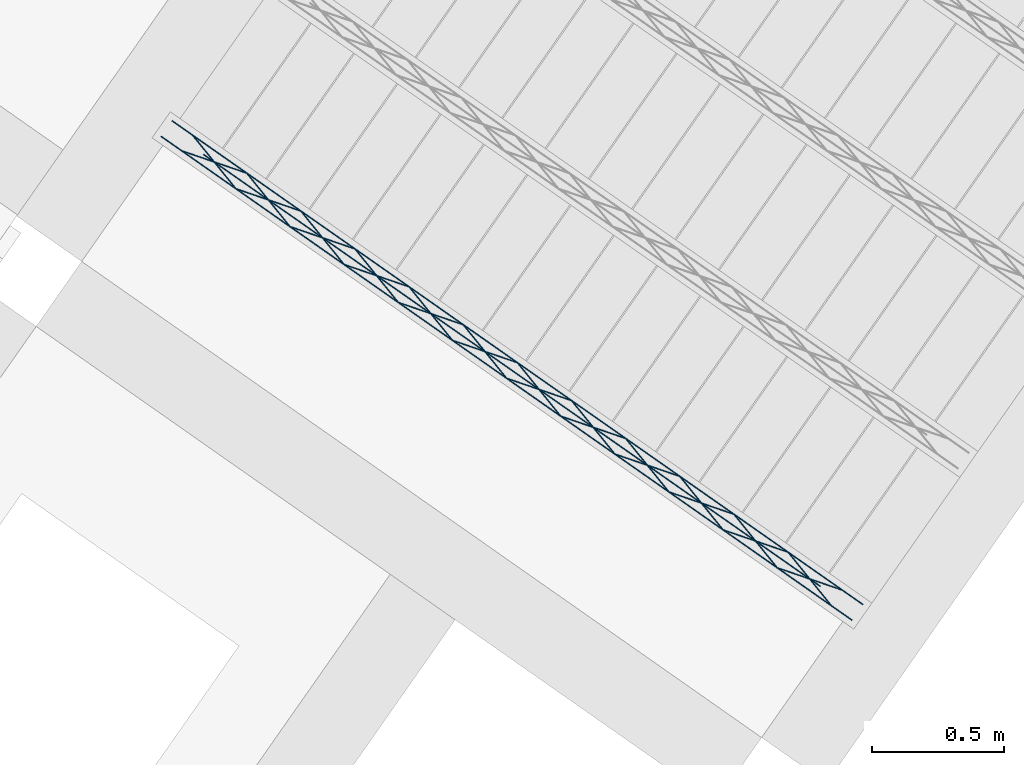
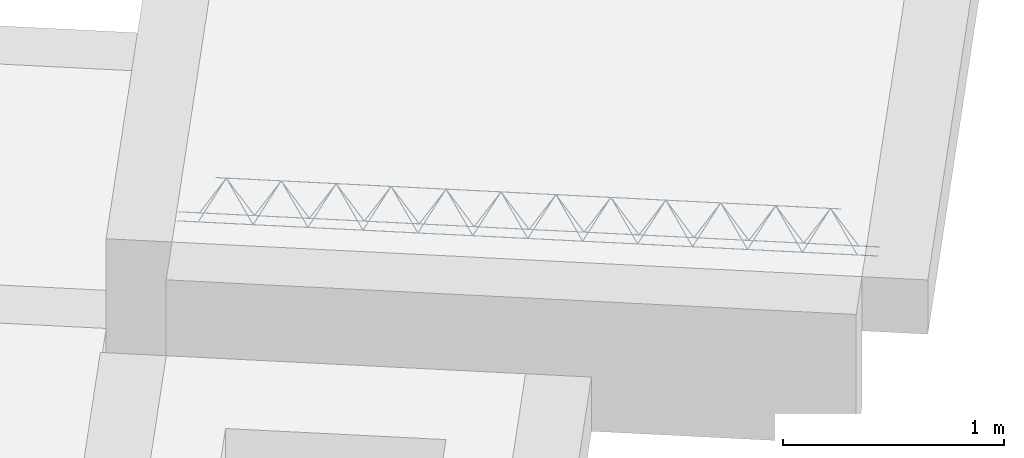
# One storey, part 19 of 46: 1 member.
"""IFC2X3 building model written with IfcOpenShell, lengths in metres."""

from ifc_helpers import new_model, entity, si_unit, converted_unit, derived_unit, direction, frame, origin, origin_2d_with_axis, place, context, subcontext, project, spatial, circle, extrude, type_object, element, save


model = new_model("IFC2X3")

# Units and contexts
model_context = context("Model", 3, precision=1e-05, world=origin(), true_north=direction((6.123031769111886e-17, 1.0)))
body_context = subcontext(model_context, "Body", "Model", "MODEL_VIEW")
ifc_project = project(units=[si_unit("LENGTHUNIT", "METRE"), si_unit("AREAUNIT", "SQUARE_METRE"), si_unit("VOLUMEUNIT", "CUBIC_METRE"), converted_unit("PLANEANGLEUNIT", "DEGREE", entity("IfcPlaneAngleMeasure", 0.017453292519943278), si_unit("PLANEANGLEUNIT", "RADIAN"), dimensions=[0, 0, 0, 0, 0, 0, 0]), si_unit("MASSUNIT", "GRAM", prefix="KILO"), derived_unit("MASSDENSITYUNIT", [(si_unit("MASSUNIT", "GRAM", prefix="KILO"), 1), (si_unit("LENGTHUNIT", "METRE"), -3)]), derived_unit("IONCONCENTRATIONUNIT", [(si_unit("MASSUNIT", "GRAM", prefix="KILO"), 1), (si_unit("LENGTHUNIT", "METRE"), -3)]), derived_unit("MOMENTOFINERTIAUNIT", [(si_unit("LENGTHUNIT", "METRE"), 4)]), si_unit("TIMEUNIT", "SECOND"), si_unit("FREQUENCYUNIT", "HERTZ"), si_unit("THERMODYNAMICTEMPERATUREUNIT", "DEGREE_CELSIUS"), derived_unit("THERMALTRANSMITTANCEUNIT", [(si_unit("MASSUNIT", "GRAM", prefix="KILO"), 1), (si_unit("THERMODYNAMICTEMPERATUREUNIT", "KELVIN"), -1), (si_unit("TIMEUNIT", "SECOND"), -3)]), derived_unit("THERMALCONDUCTANCEUNIT", [(si_unit("MASSUNIT", "GRAM", prefix="KILO"), 1), (si_unit("THERMODYNAMICTEMPERATUREUNIT", "KELVIN"), -1), (si_unit("TIMEUNIT", "SECOND"), -3), (si_unit("LENGTHUNIT", "METRE"), 1)]), derived_unit("VOLUMETRICFLOWRATEUNIT", [(si_unit("LENGTHUNIT", "METRE", prefix="DECI"), 3), (si_unit("TIMEUNIT", "SECOND"), -1)]), derived_unit("MASSFLOWRATEUNIT", [(si_unit("MASSUNIT", "GRAM", prefix="KILO"), 1), (si_unit("TIMEUNIT", "SECOND"), -1)]), derived_unit("ROTATIONALFREQUENCYUNIT", [(si_unit("TIMEUNIT", "SECOND"), -1)]), si_unit("ELECTRICCURRENTUNIT", "AMPERE"), si_unit("ELECTRICVOLTAGEUNIT", "VOLT"), si_unit("POWERUNIT", "WATT"), si_unit("FORCEUNIT", "NEWTON", prefix="KILO"), si_unit("ILLUMINANCEUNIT", "LUX"), si_unit("LUMINOUSFLUXUNIT", "LUMEN"), si_unit("LUMINOUSINTENSITYUNIT", "CANDELA"), si_unit("ENERGYUNIT", "JOULE"), derived_unit("USERDEFINED", [(si_unit("MASSUNIT", "GRAM", prefix="KILO"), -1), (si_unit("LENGTHUNIT", "METRE"), -2), (si_unit("TIMEUNIT", "SECOND"), 3), (si_unit("LUMINOUSFLUXUNIT", "LUMEN"), 1)]), derived_unit("USERDEFINED", [(si_unit("MASSUNIT", "GRAM", prefix="KILO"), 1), (si_unit("TIMEUNIT", "SECOND"), -3), (si_unit("LENGTHUNIT", "METRE"), 3), (si_unit("ELECTRICCURRENTUNIT", "AMPERE"), -2)]), derived_unit("SOUNDPOWERUNIT", [(si_unit("MASSUNIT", "GRAM", prefix="KILO"), 1), (si_unit("TIMEUNIT", "SECOND"), -3), (si_unit("LENGTHUNIT", "METRE"), 2)]), derived_unit("SOUNDPRESSUREUNIT", [(si_unit("MASSUNIT", "GRAM", prefix="KILO"), 1), (si_unit("LENGTHUNIT", "METRE"), -1), (si_unit("TIMEUNIT", "SECOND"), -2)]), derived_unit("LINEARVELOCITYUNIT", [(si_unit("LENGTHUNIT", "METRE"), 1), (si_unit("TIMEUNIT", "SECOND"), -1)]), si_unit("PRESSUREUNIT", "PASCAL"), derived_unit("USERDEFINED", [(si_unit("MASSUNIT", "GRAM", prefix="KILO"), 1), (si_unit("LENGTHUNIT", "METRE"), -2), (si_unit("TIMEUNIT", "SECOND"), -2)]), derived_unit("LINEARFORCEUNIT", [(si_unit("MASSUNIT", "GRAM", prefix="KILO"), 1), (si_unit("TIMEUNIT", "SECOND"), -2)]), derived_unit("PLANARFORCEUNIT", [(si_unit("MASSUNIT", "GRAM", prefix="KILO"), 1), (si_unit("LENGTHUNIT", "METRE"), -1), (si_unit("TIMEUNIT", "SECOND"), -2)]), derived_unit("SPECIFICHEATCAPACITYUNIT", [(si_unit("THERMODYNAMICTEMPERATUREUNIT", "KELVIN"), -1), (si_unit("LENGTHUNIT", "METRE"), 2), (si_unit("TIMEUNIT", "SECOND"), -2)]), derived_unit("HEATFLUXDENSITYUNIT", [(si_unit("MASSUNIT", "GRAM", prefix="KILO"), 1), (si_unit("TIMEUNIT", "SECOND"), -3)]), derived_unit("HEATINGVALUEUNIT", [(si_unit("LENGTHUNIT", "METRE"), 2), (si_unit("TIMEUNIT", "SECOND"), -2)]), derived_unit("VAPORPERMEABILITYUNIT", [(si_unit("LENGTHUNIT", "METRE"), -1), (si_unit("TIMEUNIT", "SECOND"), 1)]), derived_unit("DYNAMICVISCOSITYUNIT", [(si_unit("MASSUNIT", "GRAM", prefix="KILO"), 1), (si_unit("TIMEUNIT", "SECOND"), -1), (si_unit("LENGTHUNIT", "METRE"), -1)]), derived_unit("THERMALEXPANSIONCOEFFICIENTUNIT", [(si_unit("THERMODYNAMICTEMPERATUREUNIT", "KELVIN"), -1)]), derived_unit("MODULUSOFELASTICITYUNIT", [(si_unit("MASSUNIT", "GRAM", prefix="KILO"), 1), (si_unit("LENGTHUNIT", "METRE"), -1), (si_unit("TIMEUNIT", "SECOND"), -2)]), derived_unit("ISOTHERMALMOISTURECAPACITYUNIT", [(si_unit("MASSUNIT", "GRAM", prefix="KILO"), -1), (si_unit("LENGTHUNIT", "METRE"), 3)]), derived_unit("MOISTUREDIFFUSIVITYUNIT", [(si_unit("TIMEUNIT", "SECOND"), -1), (si_unit("LENGTHUNIT", "METRE"), 2)]), derived_unit("MASSPERLENGTHUNIT", [(si_unit("MASSUNIT", "GRAM", prefix="KILO"), 1), (si_unit("LENGTHUNIT", "METRE"), -1)]), derived_unit("THERMALRESISTANCEUNIT", [(si_unit("MASSUNIT", "GRAM", prefix="KILO"), -1), (si_unit("TIMEUNIT", "SECOND"), 3), (si_unit("THERMODYNAMICTEMPERATUREUNIT", "KELVIN"), 1)]), derived_unit("ACCELERATIONUNIT", [(si_unit("LENGTHUNIT", "METRE"), 1), (si_unit("TIMEUNIT", "SECOND"), -2)]), derived_unit("ANGULARVELOCITYUNIT", [(si_unit("TIMEUNIT", "SECOND"), -1), (si_unit("PLANEANGLEUNIT", "RADIAN"), 1)]), derived_unit("LINEARSTIFFNESSUNIT", [(si_unit("MASSUNIT", "GRAM", prefix="KILO"), 1), (si_unit("TIMEUNIT", "SECOND"), -2)]), derived_unit("WARPINGCONSTANTUNIT", [(si_unit("LENGTHUNIT", "METRE"), 6)]), derived_unit("LINEARMOMENTUNIT", [(si_unit("MASSUNIT", "GRAM", prefix="KILO"), 1), (si_unit("LENGTHUNIT", "METRE"), 1), (si_unit("TIMEUNIT", "SECOND"), -2)]), derived_unit("TORQUEUNIT", [(si_unit("MASSUNIT", "GRAM", prefix="KILO"), 1), (si_unit("LENGTHUNIT", "METRE"), 2), (si_unit("TIMEUNIT", "SECOND"), -2)])], contexts=[model_context])

# Site, building, storey
site_placement = place(None, origin())
site = spatial("IfcSite", under=ifc_project, at=site_placement, Name="Default", CompositionType="ELEMENT")
building_placement = place(site_placement, origin())
building = spatial("IfcBuilding", under=site, at=building_placement, CompositionType="ELEMENT")
storey_placement = place(building_placement, frame((0.0, 0.0, 99.52000000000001)))
storey = spatial("IfcBuildingStorey", under=building, at=storey_placement, Name="F1", CompositionType="ELEMENT", Elevation=99.52000000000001)

# Member
member_type = type_object("IfcMemberType", Name="Celosía (Vigueta 1 - Paño 3)", PredefinedType="NOTDEFINED")
member_placement = place(storey_placement, origin())
element("IfcMember", 1, at=member_placement, inside=storey, type_object=member_type, Name="Celosía (Vigueta 1 - Paño 3)", context=body_context, shape_type="SweptSolid", body=[
    extrude(circle(Radius=0.0025, at=origin_2d_with_axis()), frame((13.091716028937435, 2.9361855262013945, 0.22500000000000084), z_axis=(-0.8191520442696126, 0.5735764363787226, 0.0), x_axis=(-0.5735764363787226, -0.8191520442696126, 0.0)), (0.0, 0.0, 1.0), 3.191999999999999),
    extrude(circle(Radius=0.0025, at=origin_2d_with_axis()), frame((10.637706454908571, 4.69844941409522, 0.4500000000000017), z_axis=(0.8191520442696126, -0.5735764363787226, 0.0), x_axis=(-0.5735764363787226, -0.8191520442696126, 0.0)), (0.0, 0.0, 1.0), 2.849999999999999),
    extrude(circle(Radius=0.0025, at=origin_2d_with_axis()), frame((13.013077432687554, 2.991248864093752, 0.22500000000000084), z_axis=(-0.3145304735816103, 0.389334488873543, 0.8657304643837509), x_axis=(-0.7778747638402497, -0.6284193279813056, 0.0)), (0.0, 0.0, 1.0), 0.2598961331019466),
    extrude(circle(Radius=0.0025, at=origin_2d_with_axis()), frame((12.808289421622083, 3.1346429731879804, 0.22499999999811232), z_axis=(0.47343050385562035, -0.1624017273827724, 0.8657304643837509), x_axis=(-0.3244721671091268, -0.9458952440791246, 0.0)), (0.0, 0.0, 1.0), 0.25989613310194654),
    extrude(circle(Radius=0.0025, at=origin_2d_with_axis()), frame((12.80828942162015, 3.134642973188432, 0.22500000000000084), z_axis=(-0.3145304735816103, 0.389334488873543, 0.8657304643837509), x_axis=(-0.7778747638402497, -0.6284193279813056, 0.0)), (0.0, 0.0, 1.0), 0.2598961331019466),
    extrude(circle(Radius=0.0025, at=origin_2d_with_axis()), frame((12.603501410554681, 3.2780370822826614, 0.22499999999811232), z_axis=(0.47343050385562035, -0.1624017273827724, 0.8657304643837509), x_axis=(-0.3244721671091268, -0.9458952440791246, 0.0)), (0.0, 0.0, 1.0), 0.25989613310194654),
    extrude(circle(Radius=0.0025, at=origin_2d_with_axis()), frame((12.603501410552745, 3.278037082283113, 0.22500000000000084), z_axis=(-0.3145304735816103, 0.389334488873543, 0.8657304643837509), x_axis=(-0.7778747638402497, -0.6284193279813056, 0.0)), (0.0, 0.0, 1.0), 0.2598961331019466),
    extrude(circle(Radius=0.0025, at=origin_2d_with_axis()), frame((12.398713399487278, 3.4214311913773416, 0.22499999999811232), z_axis=(0.47343050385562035, -0.1624017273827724, 0.8657304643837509), x_axis=(-0.3244721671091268, -0.9458952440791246, 0.0)), (0.0, 0.0, 1.0), 0.25989613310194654),
    extrude(circle(Radius=0.0025, at=origin_2d_with_axis()), frame((12.398713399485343, 3.4214311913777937, 0.22500000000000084), z_axis=(-0.3145304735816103, 0.389334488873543, 0.8657304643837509), x_axis=(-0.7778747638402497, -0.6284193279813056, 0.0)), (0.0, 0.0, 1.0), 0.2598961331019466),
    extrude(circle(Radius=0.0025, at=origin_2d_with_axis()), frame((12.193925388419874, 3.5648253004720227, 0.22499999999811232), z_axis=(0.47343050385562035, -0.1624017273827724, 0.8657304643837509), x_axis=(-0.3244721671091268, -0.9458952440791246, 0.0)), (0.0, 0.0, 1.0), 0.25989613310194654),
    extrude(circle(Radius=0.0025, at=origin_2d_with_axis()), frame((12.19392538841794, 3.564825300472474, 0.22500000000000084), z_axis=(-0.3145304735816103, 0.389334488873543, 0.8657304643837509), x_axis=(-0.7778747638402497, -0.6284193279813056, 0.0)), (0.0, 0.0, 1.0), 0.2598961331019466),
    extrude(circle(Radius=0.0025, at=origin_2d_with_axis()), frame((11.989137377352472, 3.708219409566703, 0.22499999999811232), z_axis=(0.47343050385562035, -0.1624017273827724, 0.8657304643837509), x_axis=(-0.3244721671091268, -0.9458952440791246, 0.0)), (0.0, 0.0, 1.0), 0.25989613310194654),
    extrude(circle(Radius=0.0025, at=origin_2d_with_axis()), frame((11.989137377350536, 3.708219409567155, 0.22500000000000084), z_axis=(-0.3145304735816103, 0.389334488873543, 0.8657304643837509), x_axis=(-0.7778747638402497, -0.6284193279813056, 0.0)), (0.0, 0.0, 1.0), 0.2598961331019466),
    extrude(circle(Radius=0.0025, at=origin_2d_with_axis()), frame((11.784349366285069, 3.8516135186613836, 0.22499999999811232), z_axis=(0.47343050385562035, -0.1624017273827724, 0.8657304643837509), x_axis=(-0.3244721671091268, -0.9458952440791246, 0.0)), (0.0, 0.0, 1.0), 0.25989613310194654),
    extrude(circle(Radius=0.0025, at=origin_2d_with_axis()), frame((11.784349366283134, 3.8516135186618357, 0.22500000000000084), z_axis=(-0.3145304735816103, 0.389334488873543, 0.8657304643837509), x_axis=(-0.7778747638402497, -0.6284193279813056, 0.0)), (0.0, 0.0, 1.0), 0.2598961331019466),
    extrude(circle(Radius=0.0025, at=origin_2d_with_axis()), frame((11.579561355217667, 3.9950076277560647, 0.22499999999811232), z_axis=(0.47343050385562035, -0.1624017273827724, 0.8657304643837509), x_axis=(-0.3244721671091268, -0.9458952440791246, 0.0)), (0.0, 0.0, 1.0), 0.25989613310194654),
    extrude(circle(Radius=0.0025, at=origin_2d_with_axis()), frame((11.57956135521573, 3.9950076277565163, 0.22500000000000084), z_axis=(-0.3145304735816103, 0.389334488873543, 0.8657304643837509), x_axis=(-0.7778747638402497, -0.6284193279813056, 0.0)), (0.0, 0.0, 1.0), 0.2598961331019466),
    extrude(circle(Radius=0.0025, at=origin_2d_with_axis()), frame((11.374773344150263, 4.138401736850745, 0.22499999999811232), z_axis=(0.47343050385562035, -0.1624017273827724, 0.8657304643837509), x_axis=(-0.3244721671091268, -0.9458952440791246, 0.0)), (0.0, 0.0, 1.0), 0.25989613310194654),
    extrude(circle(Radius=0.0025, at=origin_2d_with_axis()), frame((11.374773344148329, 4.138401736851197, 0.22500000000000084), z_axis=(-0.3145304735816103, 0.389334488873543, 0.8657304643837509), x_axis=(-0.7778747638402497, -0.6284193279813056, 0.0)), (0.0, 0.0, 1.0), 0.2598961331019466),
    extrude(circle(Radius=0.0025, at=origin_2d_with_axis()), frame((11.169985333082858, 4.2817958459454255, 0.22499999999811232), z_axis=(0.47343050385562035, -0.1624017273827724, 0.8657304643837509), x_axis=(-0.3244721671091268, -0.9458952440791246, 0.0)), (0.0, 0.0, 1.0), 0.25989613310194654),
    extrude(circle(Radius=0.0025, at=origin_2d_with_axis()), frame((11.169985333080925, 4.281795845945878, 0.22500000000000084), z_axis=(-0.3145304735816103, 0.389334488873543, 0.8657304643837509), x_axis=(-0.7778747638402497, -0.6284193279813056, 0.0)), (0.0, 0.0, 1.0), 0.2598961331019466),
    extrude(circle(Radius=0.0025, at=origin_2d_with_axis()), frame((10.965197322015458, 4.425189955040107, 0.22499999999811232), z_axis=(0.47343050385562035, -0.1624017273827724, 0.8657304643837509), x_axis=(-0.3244721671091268, -0.9458952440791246, 0.0)), (0.0, 0.0, 1.0), 0.25989613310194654),
    extrude(circle(Radius=0.0025, at=origin_2d_with_axis()), frame((10.965197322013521, 4.425189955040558, 0.22500000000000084), z_axis=(-0.3145304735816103, 0.389334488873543, 0.8657304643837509), x_axis=(-0.7778747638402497, -0.6284193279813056, 0.0)), (0.0, 0.0, 1.0), 0.2598961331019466),
    extrude(circle(Radius=0.0025, at=origin_2d_with_axis()), frame((10.760409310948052, 4.568584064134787, 0.22499999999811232), z_axis=(0.47343050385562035, -0.1624017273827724, 0.8657304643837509), x_axis=(-0.3244721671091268, -0.9458952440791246, 0.0)), (0.0, 0.0, 1.0), 0.25989613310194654),
    extrude(circle(Radius=0.0025, at=origin_2d_with_axis()), frame((10.76040931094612, 4.568584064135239, 0.22500000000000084), z_axis=(-0.3145304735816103, 0.389334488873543, 0.8657304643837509), x_axis=(-0.7778747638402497, -0.6284193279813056, 0.0)), (0.0, 0.0, 1.0), 0.2598961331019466),
    extrude(circle(Radius=0.0025, at=origin_2d_with_axis()), frame((10.555621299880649, 4.711978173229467, 0.22499999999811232), z_axis=(0.47343050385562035, -0.1624017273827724, 0.8657304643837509), x_axis=(-0.3244721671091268, -0.9458952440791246, 0.0)), (0.0, 0.0, 1.0), 0.25989613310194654),
    extrude(circle(Radius=0.0025, at=origin_2d_with_axis()), frame((10.518280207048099, 4.826020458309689, 0.22500000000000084), z_axis=(0.8191520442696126, -0.5735764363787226, 0.0), x_axis=(-0.5735764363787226, -0.8191520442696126, 0.0)), (0.0, 0.0, 1.0), 3.1920000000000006),
    extrude(circle(Radius=0.0025, at=origin_2d_with_axis()), frame((13.054374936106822, 3.0502278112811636, 0.22500000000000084), z_axis=(-0.47343050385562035, 0.1624017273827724, 0.8657304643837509), x_axis=(-0.3244721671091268, -0.9458952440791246, 0.0)), (0.0, 0.0, 1.0), 0.25989613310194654),
    extrude(circle(Radius=0.0025, at=origin_2d_with_axis()), frame((12.849586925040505, 3.1936219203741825, 0.22499999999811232), z_axis=(0.3145304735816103, -0.389334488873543, 0.8657304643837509), x_axis=(-0.7778747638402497, -0.6284193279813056, 0.0)), (0.0, 0.0, 1.0), 0.2598961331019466),
    extrude(circle(Radius=0.0025, at=origin_2d_with_axis()), frame((12.849586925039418, 3.1936219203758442, 0.22500000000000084), z_axis=(-0.47343050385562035, 0.1624017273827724, 0.8657304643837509), x_axis=(-0.3244721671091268, -0.9458952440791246, 0.0)), (0.0, 0.0, 1.0), 0.25989613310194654),
    extrude(circle(Radius=0.0025, at=origin_2d_with_axis()), frame((12.644798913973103, 3.337016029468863, 0.22499999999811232), z_axis=(0.3145304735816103, -0.389334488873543, 0.8657304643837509), x_axis=(-0.7778747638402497, -0.6284193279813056, 0.0)), (0.0, 0.0, 1.0), 0.2598961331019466),
    extrude(circle(Radius=0.0025, at=origin_2d_with_axis()), frame((12.644798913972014, 3.337016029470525, 0.22500000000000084), z_axis=(-0.47343050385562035, 0.1624017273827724, 0.8657304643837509), x_axis=(-0.3244721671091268, -0.9458952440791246, 0.0)), (0.0, 0.0, 1.0), 0.25989613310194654),
    extrude(circle(Radius=0.0025, at=origin_2d_with_axis()), frame((12.4400109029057, 3.4804101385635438, 0.22499999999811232), z_axis=(0.3145304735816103, -0.389334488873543, 0.8657304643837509), x_axis=(-0.7778747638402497, -0.6284193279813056, 0.0)), (0.0, 0.0, 1.0), 0.2598961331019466),
    extrude(circle(Radius=0.0025, at=origin_2d_with_axis()), frame((12.440010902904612, 3.4804101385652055, 0.22500000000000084), z_axis=(-0.47343050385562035, 0.1624017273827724, 0.8657304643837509), x_axis=(-0.3244721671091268, -0.9458952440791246, 0.0)), (0.0, 0.0, 1.0), 0.25989613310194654),
    extrude(circle(Radius=0.0025, at=origin_2d_with_axis()), frame((12.235222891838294, 3.6238042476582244, 0.22499999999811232), z_axis=(0.3145304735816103, -0.389334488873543, 0.8657304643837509), x_axis=(-0.7778747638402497, -0.6284193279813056, 0.0)), (0.0, 0.0, 1.0), 0.2598961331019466),
    extrude(circle(Radius=0.0025, at=origin_2d_with_axis()), frame((12.235222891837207, 3.623804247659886, 0.22500000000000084), z_axis=(-0.47343050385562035, 0.1624017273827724, 0.8657304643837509), x_axis=(-0.3244721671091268, -0.9458952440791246, 0.0)), (0.0, 0.0, 1.0), 0.25989613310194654),
    extrude(circle(Radius=0.0025, at=origin_2d_with_axis()), frame((12.030434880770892, 3.7671983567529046, 0.22499999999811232), z_axis=(0.3145304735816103, -0.389334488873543, 0.8657304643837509), x_axis=(-0.7778747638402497, -0.6284193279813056, 0.0)), (0.0, 0.0, 1.0), 0.2598961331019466),
    extrude(circle(Radius=0.0025, at=origin_2d_with_axis()), frame((12.030434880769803, 3.767198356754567, 0.22500000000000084), z_axis=(-0.47343050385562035, 0.1624017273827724, 0.8657304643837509), x_axis=(-0.3244721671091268, -0.9458952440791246, 0.0)), (0.0, 0.0, 1.0), 0.25989613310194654),
    extrude(circle(Radius=0.0025, at=origin_2d_with_axis()), frame((11.825646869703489, 3.9105924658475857, 0.22499999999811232), z_axis=(0.3145304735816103, -0.389334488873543, 0.8657304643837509), x_axis=(-0.7778747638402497, -0.6284193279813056, 0.0)), (0.0, 0.0, 1.0), 0.2598961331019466),
    extrude(circle(Radius=0.0025, at=origin_2d_with_axis()), frame((11.825646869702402, 3.910592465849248, 0.22500000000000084), z_axis=(-0.47343050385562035, 0.1624017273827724, 0.8657304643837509), x_axis=(-0.3244721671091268, -0.9458952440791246, 0.0)), (0.0, 0.0, 1.0), 0.25989613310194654),
    extrude(circle(Radius=0.0025, at=origin_2d_with_axis()), frame((11.620858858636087, 4.053986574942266, 0.22499999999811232), z_axis=(0.3145304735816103, -0.389334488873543, 0.8657304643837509), x_axis=(-0.7778747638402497, -0.6284193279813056, 0.0)), (0.0, 0.0, 1.0), 0.2598961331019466),
    extrude(circle(Radius=0.0025, at=origin_2d_with_axis()), frame((11.620858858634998, 4.053986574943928, 0.22500000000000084), z_axis=(-0.47343050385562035, 0.1624017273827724, 0.8657304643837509), x_axis=(-0.3244721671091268, -0.9458952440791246, 0.0)), (0.0, 0.0, 1.0), 0.25989613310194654),
    extrude(circle(Radius=0.0025, at=origin_2d_with_axis()), frame((11.416070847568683, 4.197380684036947, 0.22499999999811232), z_axis=(0.3145304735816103, -0.389334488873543, 0.8657304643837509), x_axis=(-0.7778747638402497, -0.6284193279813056, 0.0)), (0.0, 0.0, 1.0), 0.2598961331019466),
    extrude(circle(Radius=0.0025, at=origin_2d_with_axis()), frame((11.416070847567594, 4.197380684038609, 0.22500000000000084), z_axis=(-0.47343050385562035, 0.1624017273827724, 0.8657304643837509), x_axis=(-0.3244721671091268, -0.9458952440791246, 0.0)), (0.0, 0.0, 1.0), 0.25989613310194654),
    extrude(circle(Radius=0.0025, at=origin_2d_with_axis()), frame((11.21128283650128, 4.340774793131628, 0.22499999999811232), z_axis=(0.3145304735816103, -0.389334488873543, 0.8657304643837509), x_axis=(-0.7778747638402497, -0.6284193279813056, 0.0)), (0.0, 0.0, 1.0), 0.2598961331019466),
    extrude(circle(Radius=0.0025, at=origin_2d_with_axis()), frame((11.211282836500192, 4.340774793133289, 0.22500000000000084), z_axis=(-0.47343050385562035, 0.1624017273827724, 0.8657304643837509), x_axis=(-0.3244721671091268, -0.9458952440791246, 0.0)), (0.0, 0.0, 1.0), 0.25989613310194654),
    extrude(circle(Radius=0.0025, at=origin_2d_with_axis()), frame((11.006494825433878, 4.484168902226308, 0.22499999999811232), z_axis=(0.3145304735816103, -0.389334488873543, 0.8657304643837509), x_axis=(-0.7778747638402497, -0.6284193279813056, 0.0)), (0.0, 0.0, 1.0), 0.2598961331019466),
    extrude(circle(Radius=0.0025, at=origin_2d_with_axis()), frame((11.006494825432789, 4.48416890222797, 0.22500000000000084), z_axis=(-0.47343050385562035, 0.1624017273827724, 0.8657304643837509), x_axis=(-0.3244721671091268, -0.9458952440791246, 0.0)), (0.0, 0.0, 1.0), 0.25989613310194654),
    extrude(circle(Radius=0.0025, at=origin_2d_with_axis()), frame((10.801706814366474, 4.627563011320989, 0.22499999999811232), z_axis=(0.3145304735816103, -0.389334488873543, 0.8657304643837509), x_axis=(-0.7778747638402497, -0.6284193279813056, 0.0)), (0.0, 0.0, 1.0), 0.2598961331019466),
    extrude(circle(Radius=0.0025, at=origin_2d_with_axis()), frame((10.801706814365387, 4.627563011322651, 0.22500000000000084), z_axis=(-0.47343050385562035, 0.1624017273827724, 0.8657304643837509), x_axis=(-0.3244721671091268, -0.9458952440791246, 0.0)), (0.0, 0.0, 1.0), 0.25989613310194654),
    extrude(circle(Radius=0.0025, at=origin_2d_with_axis()), frame((10.59691880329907, 4.770957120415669, 0.22499999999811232), z_axis=(0.3145304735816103, -0.389334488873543, 0.8657304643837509), x_axis=(-0.7778747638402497, -0.6284193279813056, 0.0)), (0.0, 0.0, 1.0), 0.2598961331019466),
])

save(model, "model.ifc")
